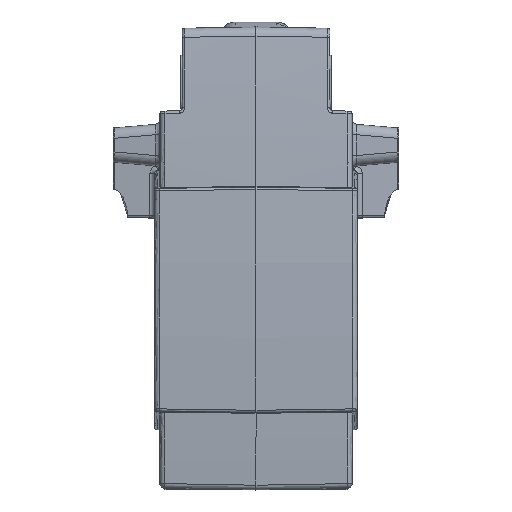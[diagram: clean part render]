
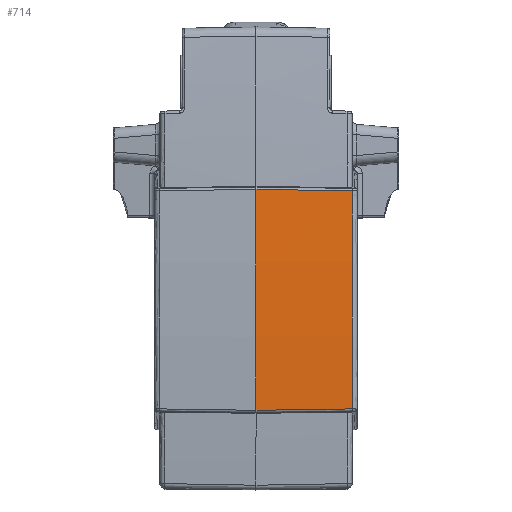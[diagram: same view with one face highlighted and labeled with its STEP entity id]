
A CAD part, left-side view. The second image highlights one B-rep face of the part: STEP entity #714.
In plain terms, the highlighted conical face has half-angle 1 degrees and reference radius 409.007 mm.
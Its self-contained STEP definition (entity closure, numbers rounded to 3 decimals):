
#214=CONICAL_SURFACE('',#6781,409.007,1.);
#314=CIRCLE('',#6750,408.684);
#326=CIRCLE('',#6780,409.007);
#714=ADVANCED_FACE('',(#1234),#214,.T.);
#1234=FACE_OUTER_BOUND('',#1635,.T.);
#1635=EDGE_LOOP('',(#3780,#3781,#3782,#3783));
#2833=B_SPLINE_CURVE_WITH_KNOTS('',3,(#11029,#11030,#11031,#11032),
 .UNSPECIFIED.,.F.,.F.,(4,4),(0.,1.),.UNSPECIFIED.);
#2834=B_SPLINE_CURVE_WITH_KNOTS('',3,(#11047,#11048,#11049,#11050,#11051,
#11052),.UNSPECIFIED.,.F.,.F.,(4,2,4),(0.,0.357,1.),
 .UNSPECIFIED.);
#3780=ORIENTED_EDGE('',*,*,#5936,.T.);
#3781=ORIENTED_EDGE('',*,*,#5937,.T.);
#3782=ORIENTED_EDGE('',*,*,#5898,.T.);
#3783=ORIENTED_EDGE('',*,*,#5935,.T.);
#5164=VERTEX_POINT('',#10640);
#5184=VERTEX_POINT('',#10816);
#5196=VERTEX_POINT('',#11028);
#5197=VERTEX_POINT('',#11046);
#5898=EDGE_CURVE('',#5184,#5164,#314,.T.);
#5935=EDGE_CURVE('',#5164,#5196,#2833,.T.);
#5936=EDGE_CURVE('',#5196,#5197,#326,.T.);
#5937=EDGE_CURVE('',#5197,#5184,#2834,.T.);
#6750=AXIS2_PLACEMENT_3D('',#10815,#7793,#7794);
#6780=AXIS2_PLACEMENT_3D('',#11045,#7870,#7871);
#6781=AXIS2_PLACEMENT_3D('',#11053,#7872,#7873);
#7793=DIRECTION('',(0.,1.,0.));
#7794=DIRECTION('',(0.,0.,-1.));
#7870=DIRECTION('',(0.,-1.,0.));
#7871=DIRECTION('',(-1.,0.,0.));
#7872=DIRECTION('',(0.,1.,0.));
#7873=DIRECTION('',(0.,0.,-1.));
#10640=CARTESIAN_POINT('',(-35.595,-18.517,20.778));
#10815=CARTESIAN_POINT('',(372.343,-18.517,-3.894));
#10816=CARTESIAN_POINT('',(-35.974,-18.517,-21.203));
#11028=CARTESIAN_POINT('',(-35.902,0.,21.047));
#11029=CARTESIAN_POINT('',(-35.595,-18.517,20.778));
#11030=CARTESIAN_POINT('',(-35.697,-12.345,20.868));
#11031=CARTESIAN_POINT('',(-35.8,-6.172,20.957));
#11032=CARTESIAN_POINT('',(-35.902,0.,21.047));
#11045=CARTESIAN_POINT('',(372.343,0.,-3.894));
#11046=CARTESIAN_POINT('',(-36.286,0.,-21.47));
#11047=CARTESIAN_POINT('',(-36.286,0.,-21.47));
#11048=CARTESIAN_POINT('',(-36.248,-2.206,-21.439));
#11049=CARTESIAN_POINT('',(-36.211,-4.412,-21.407));
#11050=CARTESIAN_POINT('',(-36.107,-10.585,-21.318));
#11051=CARTESIAN_POINT('',(-36.04,-14.551,-21.261));
#11052=CARTESIAN_POINT('',(-35.974,-18.517,-21.203));
#11053=CARTESIAN_POINT('',(372.343,0.,-3.894));
